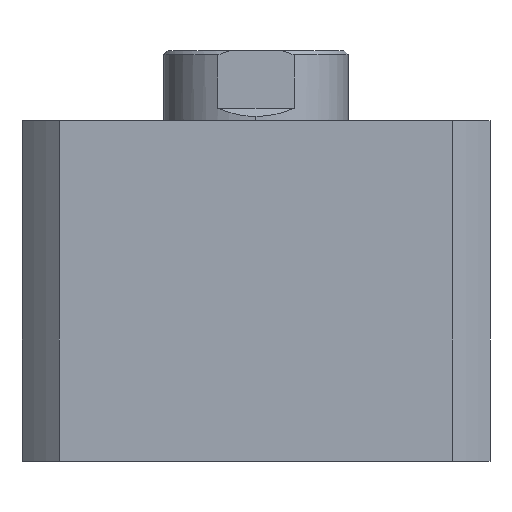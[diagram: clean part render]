
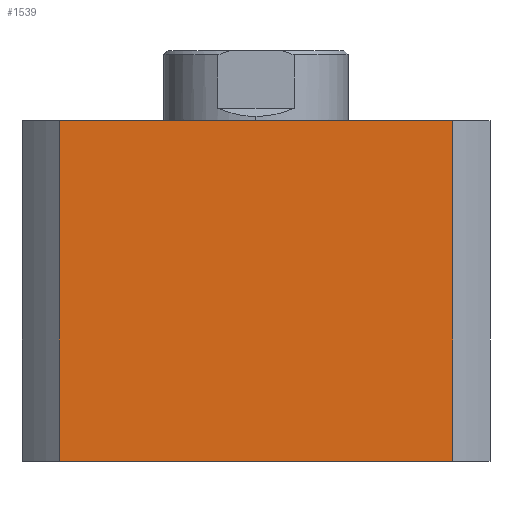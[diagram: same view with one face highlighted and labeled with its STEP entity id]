
A CAD part, left-side view. The second image highlights one B-rep face of the part: STEP entity #1539.
In plain terms, the highlighted planar face has unit normal (-1, 0, 0).
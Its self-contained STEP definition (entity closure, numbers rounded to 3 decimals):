
#1 = DIRECTION ( 'NONE',  ( 0., -1., 0. ) ) ;
#61 = CARTESIAN_POINT ( 'NONE',  ( -57., 0., 0. ) ) ;
#1168 = EDGE_LOOP ( 'NONE', ( #2442, #2441, #2440, #2439 ) ) ;
#1539 = ADVANCED_FACE ( 'NONE', ( #3391 ), #2896, .F. ) ;
#1614 = VERTEX_POINT ( 'NONE', #2826 ) ;
#1724 = VERTEX_POINT ( 'NONE', #2672 ) ;
#1763 = VERTEX_POINT ( 'NONE', #2617 ) ;
#1766 = VERTEX_POINT ( 'NONE', #2614 ) ;
#2014 = AXIS2_PLACEMENT_3D ( 'NONE', #2902, #2892, #2891 ) ;
#2050 = CARTESIAN_POINT ( 'NONE',  ( -57., 0., 83. ) ) ;
#2058 = DIRECTION ( 'NONE',  ( 0., -1., 0. ) ) ;
#2080 = DIRECTION ( 'NONE',  ( 0., 0., -1. ) ) ;
#2085 = CARTESIAN_POINT ( 'NONE',  ( -57., -47.971, 83. ) ) ;
#2086 = DIRECTION ( 'NONE',  ( 0., 0., -1. ) ) ;
#2088 = CARTESIAN_POINT ( 'NONE',  ( -57., 47.971, 83. ) ) ;
#2439 = ORIENTED_EDGE ( 'NONE', *, *, #3166, .T. ) ;
#2440 = ORIENTED_EDGE ( 'NONE', *, *, #3170, .F. ) ;
#2441 = ORIENTED_EDGE ( 'NONE', *, *, #3169, .F. ) ;
#2442 = ORIENTED_EDGE ( 'NONE', *, *, #3134, .T. ) ;
#2614 = CARTESIAN_POINT ( 'NONE',  ( -57., 47.971, 0. ) ) ;
#2617 = CARTESIAN_POINT ( 'NONE',  ( -57., 47.971, 83. ) ) ;
#2672 = CARTESIAN_POINT ( 'NONE',  ( -57., -47.971, 83. ) ) ;
#2826 = CARTESIAN_POINT ( 'NONE',  ( -57., -47.971, 0. ) ) ;
#2891 = DIRECTION ( 'NONE',  ( 0., 0., -1. ) ) ;
#2892 = DIRECTION ( 'NONE',  ( 1., 0., 0. ) ) ;
#2896 = PLANE ( 'NONE',  #2014 ) ;
#2902 = CARTESIAN_POINT ( 'NONE',  ( -57., 0., 83. ) ) ;
#3134 = EDGE_CURVE ( 'NONE', #1766, #1614, #4693, .T. ) ;
#3166 = EDGE_CURVE ( 'NONE', #1763, #1766, #4734, .T. ) ;
#3169 = EDGE_CURVE ( 'NONE', #1724, #1614, #4739, .T. ) ;
#3170 = EDGE_CURVE ( 'NONE', #1763, #1724, #4740, .T. ) ;
#3391 = FACE_OUTER_BOUND ( 'NONE', #1168, .T. ) ;
#4693 = LINE ( 'NONE', #61, #4697 ) ;
#4697 = VECTOR ( 'NONE', #1, 1000. ) ;
#4734 = LINE ( 'NONE', #2088, #4737 ) ;
#4737 = VECTOR ( 'NONE', #2086, 1000. ) ;
#4739 = LINE ( 'NONE', #2085, #4741 ) ;
#4740 = LINE ( 'NONE', #2050, #4743 ) ;
#4741 = VECTOR ( 'NONE', #2080, 1000. ) ;
#4743 = VECTOR ( 'NONE', #2058, 1000. ) ;
